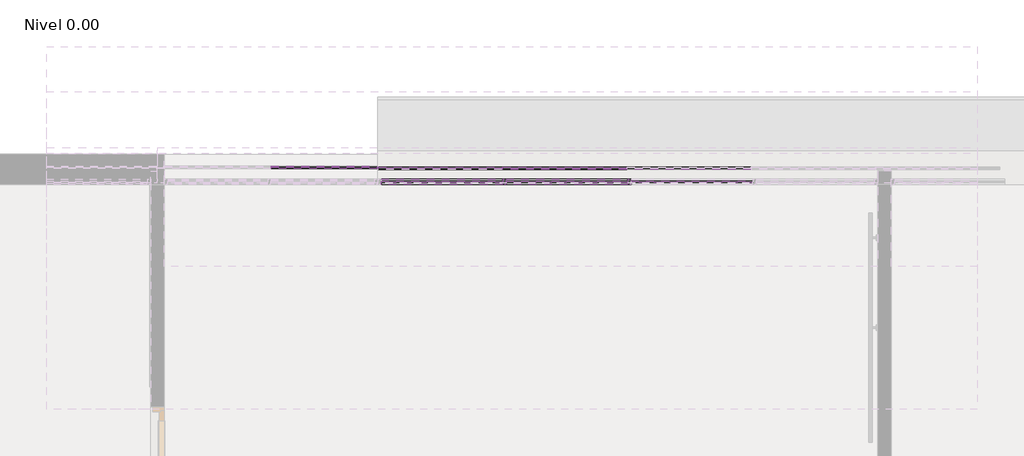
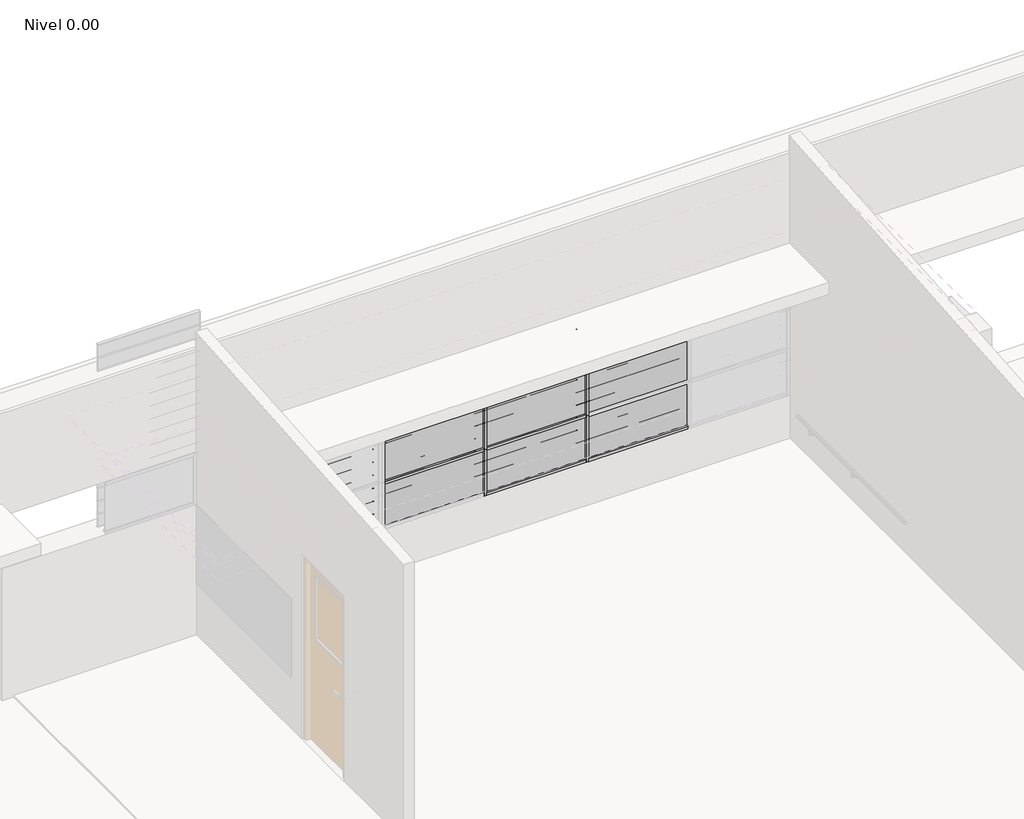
# One storey, part 17 of 27: 88 members, 48 plates.
"""IFC4 building model written with IfcOpenShell, lengths in millimetres."""

from ifc_helpers import new_model, si_unit, origin, place, context, project, spatial, transform, mapped, element, save
from components import circular_mullion_f540d6b4, circular_mullion_e1cfff8a, l_corner_mullion_285056ba, l_corner_mullion_de296168, rectangular_mullion_bbf09746, rectangular_mullion_80493510, rectangular_mullion_e9bbeab9, rectangular_mullion_bccfeea3, rectangular_mullion_bc77bd75, system_panel_6a406881, system_panel_bc75342b, system_panel_7fb71679, system_panel_d60c91ae, system_panel_glazed_7bfd0c8b, system_panel_glazed_5093aaaf

model = new_model("IFC4")

# Units and contexts
model_context = context("Model", 3, world=origin())
ifc_project = project(units=[si_unit("LENGTHUNIT", "METRE", prefix="MILLI")], contexts=[model_context])

# Site, building, storey
site = spatial("IfcSite", under=ifc_project)
building = spatial("IfcBuilding", under=site)
storey = spatial("IfcBuildingStorey", under=building, Name="Nivel 0.00", Elevation=0.0)

# Members
placement = place(None, origin())
circular_mullion_shape = circular_mullion_f540d6b4(model_context)
element("IfcMember", 1, ObjectType="Circular Mullion : ARQ_HERR_16mm", at=placement, inside=storey, context=model_context, shape_type="MappedRepresentation", body=[
    mapped(circular_mullion_shape, transform((-3094.6163923, 6959.4278548, 645.4545455), x_axis=(0.0, 0.0, 1.0), y_axis=(0.0, 1.0, 0.0), z_axis=(-1.0, 0.0, 0.0))),
])
element("IfcMember", 2, ObjectType="Circular Mullion : ARQ_HERR_16mm", at=placement, inside=storey, context=model_context, shape_type="MappedRepresentation", body=[
    mapped(circular_mullion_shape, transform((-4201.9497256, 6959.4278548, 645.4545455), x_axis=(0.0, 0.0, 1.0), y_axis=(0.0, 1.0, 0.0), z_axis=(-1.0, 0.0, 0.0))),
])
element("IfcMember", 3, ObjectType="Circular Mullion : ARQ_HERR_16mm", at=placement, inside=storey, context=model_context, shape_type="MappedRepresentation", body=[
    mapped(circular_mullion_shape, transform((-3094.6163923, 6959.4278548, 790.9090909), x_axis=(0.0, 0.0, 1.0), y_axis=(0.0, 1.0, 0.0), z_axis=(-1.0, 0.0, 0.0))),
])
element("IfcMember", 4, ObjectType="Circular Mullion : ARQ_HERR_16mm", at=placement, inside=storey, context=model_context, shape_type="MappedRepresentation", body=[
    mapped(circular_mullion_shape, transform((-4201.9497256, 6959.4278548, 790.9090909), x_axis=(0.0, 0.0, 1.0), y_axis=(0.0, 1.0, 0.0), z_axis=(-1.0, 0.0, 0.0))),
])
element("IfcMember", 5, ObjectType="Circular Mullion : ARQ_HERR_16mm", at=placement, inside=storey, context=model_context, shape_type="MappedRepresentation", body=[
    mapped(circular_mullion_shape, transform((-3094.6163923, 6959.4278548, 936.3636364), x_axis=(0.0, 0.0, 1.0), y_axis=(0.0, 1.0, 0.0), z_axis=(-1.0, 0.0, 0.0))),
])
element("IfcMember", 6, ObjectType="Circular Mullion : ARQ_HERR_16mm", at=placement, inside=storey, context=model_context, shape_type="MappedRepresentation", body=[
    mapped(circular_mullion_shape, transform((-4201.9497256, 6959.4278548, 936.3636364), x_axis=(0.0, 0.0, 1.0), y_axis=(0.0, 1.0, 0.0), z_axis=(-1.0, 0.0, 0.0))),
])
element("IfcMember", 7, ObjectType="Circular Mullion : ARQ_HERR_16mm", at=placement, inside=storey, context=model_context, shape_type="MappedRepresentation", body=[
    mapped(circular_mullion_shape, transform((-3094.6163923, 6959.4278548, 1081.8181818), x_axis=(0.0, 0.0, 1.0), y_axis=(0.0, 1.0, 0.0), z_axis=(-1.0, 0.0, 0.0))),
])
element("IfcMember", 8, ObjectType="Circular Mullion : ARQ_HERR_16mm", at=placement, inside=storey, context=model_context, shape_type="MappedRepresentation", body=[
    mapped(circular_mullion_shape, transform((-4201.9497256, 6959.4278548, 1081.8181818), x_axis=(0.0, 0.0, 1.0), y_axis=(0.0, 1.0, 0.0), z_axis=(-1.0, 0.0, 0.0))),
])
element("IfcMember", 9, ObjectType="Circular Mullion : ARQ_HERR_16mm", at=placement, inside=storey, context=model_context, shape_type="MappedRepresentation", body=[
    mapped(circular_mullion_shape, transform((-3094.6163923, 6959.4278548, 1227.2727273), x_axis=(0.0, 0.0, 1.0), y_axis=(0.0, 1.0, 0.0), z_axis=(-1.0, 0.0, 0.0))),
])
element("IfcMember", 10, ObjectType="Circular Mullion : ARQ_HERR_16mm", at=placement, inside=storey, context=model_context, shape_type="MappedRepresentation", body=[
    mapped(circular_mullion_shape, transform((-4201.9497256, 6959.4278548, 1227.2727273), x_axis=(0.0, 0.0, 1.0), y_axis=(0.0, 1.0, 0.0), z_axis=(-1.0, 0.0, 0.0))),
])
element("IfcMember", 11, ObjectType="Circular Mullion : ARQ_HERR_16mm", at=placement, inside=storey, context=model_context, shape_type="MappedRepresentation", body=[
    mapped(circular_mullion_shape, transform((-3094.6163923, 6959.4278548, 1372.7272727), x_axis=(0.0, 0.0, 1.0), y_axis=(0.0, 1.0, 0.0), z_axis=(-1.0, 0.0, 0.0))),
])
element("IfcMember", 12, ObjectType="Circular Mullion : ARQ_HERR_16mm", at=placement, inside=storey, context=model_context, shape_type="MappedRepresentation", body=[
    mapped(circular_mullion_shape, transform((-4201.9497256, 6959.4278548, 1372.7272727), x_axis=(0.0, 0.0, 1.0), y_axis=(0.0, 1.0, 0.0), z_axis=(-1.0, 0.0, 0.0))),
])
element("IfcMember", 13, ObjectType="Circular Mullion : ARQ_HERR_16mm", at=placement, inside=storey, context=model_context, shape_type="MappedRepresentation", body=[
    mapped(circular_mullion_shape, transform((-3094.6163923, 6959.4278548, 1518.1818182), x_axis=(0.0, 0.0, 1.0), y_axis=(0.0, 1.0, 0.0), z_axis=(-1.0, 0.0, 0.0))),
])
element("IfcMember", 14, ObjectType="Circular Mullion : ARQ_HERR_16mm", at=placement, inside=storey, context=model_context, shape_type="MappedRepresentation", body=[
    mapped(circular_mullion_shape, transform((-4201.9497256, 6959.4278548, 1518.1818182), x_axis=(0.0, 0.0, 1.0), y_axis=(0.0, 1.0, 0.0), z_axis=(-1.0, 0.0, 0.0))),
])
element("IfcMember", 15, ObjectType="Circular Mullion : ARQ_HERR_16mm", at=placement, inside=storey, context=model_context, shape_type="MappedRepresentation", body=[
    mapped(circular_mullion_shape, transform((-3094.6163923, 6959.4278548, 1663.6363636), x_axis=(0.0, 0.0, 1.0), y_axis=(0.0, 1.0, 0.0), z_axis=(-1.0, 0.0, 0.0))),
])
element("IfcMember", 16, ObjectType="Circular Mullion : ARQ_HERR_16mm", at=placement, inside=storey, context=model_context, shape_type="MappedRepresentation", body=[
    mapped(circular_mullion_shape, transform((-4201.9497256, 6959.4278548, 1663.6363636), x_axis=(0.0, 0.0, 1.0), y_axis=(0.0, 1.0, 0.0), z_axis=(-1.0, 0.0, 0.0))),
])
element("IfcMember", 17, ObjectType="Circular Mullion : ARQ_HERR_16mm", at=placement, inside=storey, context=model_context, shape_type="MappedRepresentation", body=[
    mapped(circular_mullion_shape, transform((-3094.6163923, 6959.4278548, 1809.0909091), x_axis=(0.0, 0.0, 1.0), y_axis=(0.0, 1.0, 0.0), z_axis=(-1.0, 0.0, 0.0))),
])
element("IfcMember", 18, ObjectType="Circular Mullion : ARQ_HERR_16mm", at=placement, inside=storey, context=model_context, shape_type="MappedRepresentation", body=[
    mapped(circular_mullion_shape, transform((-4201.9497256, 6959.4278548, 1809.0909091), x_axis=(0.0, 0.0, 1.0), y_axis=(0.0, 1.0, 0.0), z_axis=(-1.0, 0.0, 0.0))),
])
element("IfcMember", 19, ObjectType="Circular Mullion : ARQ_HERR_16mm", at=placement, inside=storey, context=model_context, shape_type="MappedRepresentation", body=[
    mapped(circular_mullion_shape, transform((-3094.6163923, 6959.4278548, 1954.5454545), x_axis=(0.0, 0.0, 1.0), y_axis=(0.0, 1.0, 0.0), z_axis=(-1.0, 0.0, 0.0))),
])
element("IfcMember", 20, ObjectType="Circular Mullion : ARQ_HERR_16mm", at=placement, inside=storey, context=model_context, shape_type="MappedRepresentation", body=[
    mapped(circular_mullion_shape, transform((-4201.9497256, 6959.4278548, 1954.5454545), x_axis=(0.0, 0.0, 1.0), y_axis=(0.0, 1.0, 0.0), z_axis=(-1.0, 0.0, 0.0))),
])
circular_mullion_2_shape = circular_mullion_e1cfff8a(model_context)
element("IfcMember", 21, ObjectType="Circular Mullion : ARQ_HERR_16mm", at=placement, inside=storey, context=model_context, shape_type="MappedRepresentation", body=[
    mapped(circular_mullion_2_shape, transform((-5321.3271808, 6959.43912, 150.0), x_axis=(0.0, 0.0, 1.0), y_axis=(0.0, -1.0, 0.0), z_axis=(1.0, 0.0, 0.0))),
])
element("IfcMember", 22, ObjectType="Circular Mullion : ARQ_HERR_16mm", at=placement, inside=storey, context=model_context, shape_type="MappedRepresentation", body=[
    mapped(circular_mullion_2_shape, transform((-5321.3271808, 6959.43912, 300.0), x_axis=(0.0, 0.0, 1.0), y_axis=(0.0, -1.0, 0.0), z_axis=(1.0, 0.0, 0.0))),
])
element("IfcMember", 23, ObjectType="Circular Mullion : ARQ_HERR_16mm", at=placement, inside=storey, context=model_context, shape_type="MappedRepresentation", body=[
    mapped(circular_mullion_2_shape, transform((-5321.3271808, 6959.43912, 450.0), x_axis=(0.0, 0.0, 1.0), y_axis=(0.0, -1.0, 0.0), z_axis=(1.0, 0.0, 0.0))),
])
element("IfcMember", 24, ObjectType="Circular Mullion : ARQ_HERR_16mm", at=placement, inside=storey, context=model_context, shape_type="MappedRepresentation", body=[
    mapped(circular_mullion_2_shape, transform((-5321.3271808, 6959.43912, 600.0), x_axis=(0.0, 0.0, 1.0), y_axis=(0.0, -1.0, 0.0), z_axis=(1.0, 0.0, 0.0))),
])
element("IfcMember", 25, ObjectType="Circular Mullion : ARQ_HERR_16mm", at=placement, inside=storey, context=model_context, shape_type="MappedRepresentation", body=[
    mapped(circular_mullion_2_shape, transform((-5321.3271808, 6959.43912, 750.0), x_axis=(0.0, 0.0, 1.0), y_axis=(0.0, -1.0, 0.0), z_axis=(1.0, 0.0, 0.0))),
])
element("IfcMember", 26, ObjectType="Circular Mullion : ARQ_HERR_16mm", at=placement, inside=storey, context=model_context, shape_type="MappedRepresentation", body=[
    mapped(circular_mullion_2_shape, transform((-5321.3271808, 6959.43912, 900.0), x_axis=(0.0, 0.0, 1.0), y_axis=(0.0, -1.0, 0.0), z_axis=(1.0, 0.0, 0.0))),
])
element("IfcMember", 27, ObjectType="Circular Mullion : ARQ_HERR_16mm", at=placement, inside=storey, context=model_context, shape_type="MappedRepresentation", body=[
    mapped(circular_mullion_2_shape, transform((-5321.3271808, 6959.43912, 1050.0), x_axis=(0.0, 0.0, 1.0), y_axis=(0.0, -1.0, 0.0), z_axis=(1.0, 0.0, 0.0))),
])
element("IfcMember", 28, ObjectType="Circular Mullion : ARQ_HERR_16mm", at=placement, inside=storey, context=model_context, shape_type="MappedRepresentation", body=[
    mapped(circular_mullion_2_shape, transform((-5321.3271808, 6959.43912, 1200.0), x_axis=(0.0, 0.0, 1.0), y_axis=(0.0, -1.0, 0.0), z_axis=(1.0, 0.0, 0.0))),
])
element("IfcMember", 29, ObjectType="Circular Mullion : ARQ_HERR_16mm", at=placement, inside=storey, context=model_context, shape_type="MappedRepresentation", body=[
    mapped(circular_mullion_2_shape, transform((-5321.3271808, 6959.43912, 1350.0), x_axis=(0.0, 0.0, 1.0), y_axis=(0.0, -1.0, 0.0), z_axis=(1.0, 0.0, 0.0))),
])
element("IfcMember", 30, ObjectType="Circular Mullion : ARQ_HERR_16mm", at=placement, inside=storey, context=model_context, shape_type="MappedRepresentation", body=[
    mapped(circular_mullion_2_shape, transform((-5321.3271808, 6959.43912, 1500.0), x_axis=(0.0, 0.0, 1.0), y_axis=(0.0, -1.0, 0.0), z_axis=(1.0, 0.0, 0.0))),
])
element("IfcMember", 31, ObjectType="Circular Mullion : ARQ_HERR_16mm", at=placement, inside=storey, context=model_context, shape_type="MappedRepresentation", body=[
    mapped(circular_mullion_2_shape, transform((-5321.3271808, 6959.43912, 1650.0), x_axis=(0.0, 0.0, 1.0), y_axis=(0.0, -1.0, 0.0), z_axis=(1.0, 0.0, 0.0))),
])
element("IfcMember", 32, ObjectType="Circular Mullion : ARQ_HERR_16mm", at=placement, inside=storey, context=model_context, shape_type="MappedRepresentation", body=[
    mapped(circular_mullion_2_shape, transform((-5321.3271808, 6959.43912, 1800.0), x_axis=(0.0, 0.0, 1.0), y_axis=(0.0, -1.0, 0.0), z_axis=(1.0, 0.0, 0.0))),
])
element("IfcMember", 33, ObjectType="Circular Mullion : ARQ_HERR_16mm", at=placement, inside=storey, context=model_context, shape_type="MappedRepresentation", body=[
    mapped(circular_mullion_2_shape, transform((-5321.3271808, 6959.43912, 1950.0), x_axis=(0.0, 0.0, 1.0), y_axis=(0.0, -1.0, 0.0), z_axis=(1.0, 0.0, 0.0))),
])
l_corner_mullion_shape = l_corner_mullion_285056ba(model_context)
element("IfcMember", 34, ObjectType="L Corner Mullion : ARQ_HERR_15X6mm", at=placement, inside=storey, context=model_context, shape_type="MappedRepresentation", body=[
    mapped(l_corner_mullion_shape, transform((-3094.6163923, 6959.4278548, 2100.0), x_axis=(0.0, 0.0, 1.0), y_axis=(0.0, 1.0, 0.0), z_axis=(-1.0, 0.0, 0.0))),
])
element("IfcMember", 35, ObjectType="L Corner Mullion : ARQ_HERR_15X6mm", at=placement, inside=storey, context=model_context, shape_type="MappedRepresentation", body=[
    mapped(l_corner_mullion_shape, transform((-4201.9497256, 6959.4278548, 2100.0), x_axis=(0.0, 0.0, 1.0), y_axis=(0.0, 1.0, 0.0), z_axis=(-1.0, 0.0, 0.0))),
])
element("IfcMember", 36, ObjectType="L Corner Mullion : ARQ_HERR_15X6mm", at=placement, inside=storey, context=model_context, shape_type="MappedRepresentation", body=[
    mapped(l_corner_mullion_shape, transform((-3100.6163923, 6959.4278548, 500.0), x_axis=(0.0, 0.0, -1.0), y_axis=(0.0, 1.0, 0.0), z_axis=(1.0, 0.0, 0.0))),
])
element("IfcMember", 37, ObjectType="L Corner Mullion : ARQ_HERR_15X6mm", at=placement, inside=storey, context=model_context, shape_type="MappedRepresentation", body=[
    mapped(l_corner_mullion_shape, transform((-4207.9497256, 6959.4278548, 500.0), x_axis=(0.0, 0.0, -1.0), y_axis=(0.0, 1.0, 0.0), z_axis=(1.0, 0.0, 0.0))),
])
l_corner_mullion_2_shape = l_corner_mullion_de296168(model_context)
element("IfcMember", 38, ObjectType="L Corner Mullion : ARQ_HERR_15X6mm", at=placement, inside=storey, context=model_context, shape_type="MappedRepresentation", body=[
    mapped(l_corner_mullion_2_shape, transform((-5321.3271808, 6959.43912, 2100.0), x_axis=(0.0, 0.0, 1.0), y_axis=(0.0, -1.0, 0.0), z_axis=(1.0, 0.0, 0.0))),
])
rectangular_mullion_shape = rectangular_mullion_bbf09746(model_context)
element("IfcMember", 39, ObjectType="Rectangular Mullion : ARQ_TV_MULL_50x30mm", at=placement, inside=storey, context=model_context, shape_type="MappedRepresentation", body=[
    mapped(rectangular_mullion_shape, transform((-4187.8546224, 6834.439065, 500.0), x_axis=(1.0, 0.0, 0.0), y_axis=(0.0, -1.0, 0.0), z_axis=(0.0, 0.0, -1.0))),
])
element("IfcMember", 40, ObjectType="Rectangular Mullion : ARQ_TV_MULL_50x30mm", at=placement, inside=storey, context=model_context, shape_type="MappedRepresentation", body=[
    mapped(rectangular_mullion_shape, transform((-3075.426186, 6834.439065, 500.0), x_axis=(1.0, 0.0, 0.0), y_axis=(0.0, -1.0, 0.0), z_axis=(0.0, 0.0, -1.0))),
])
element("IfcMember", 41, ObjectType="Rectangular Mullion : ARQ_TV_MULL_50x30mm", at=placement, inside=storey, context=model_context, shape_type="MappedRepresentation", body=[
    mapped(rectangular_mullion_shape, transform((-4187.8546224, 6834.439065, 1033.3333333), x_axis=(1.0, 0.0, 0.0), y_axis=(0.0, -1.0, 0.0), z_axis=(0.0, 0.0, -1.0))),
])
element("IfcMember", 42, ObjectType="Rectangular Mullion : ARQ_TV_MULL_50x30mm", at=placement, inside=storey, context=model_context, shape_type="MappedRepresentation", body=[
    mapped(rectangular_mullion_shape, transform((-3075.426186, 6834.439065, 1033.3333333), x_axis=(1.0, 0.0, 0.0), y_axis=(0.0, -1.0, 0.0), z_axis=(0.0, 0.0, -1.0))),
])
element("IfcMember", 43, ObjectType="Rectangular Mullion : ARQ_TV_MULL_50x30mm", at=placement, inside=storey, context=model_context, shape_type="MappedRepresentation", body=[
    mapped(rectangular_mullion_shape, transform((-4187.8546224, 6834.439065, 1566.6666667), x_axis=(1.0, 0.0, 0.0), y_axis=(0.0, -1.0, 0.0), z_axis=(0.0, 0.0, -1.0))),
])
element("IfcMember", 44, ObjectType="Rectangular Mullion : ARQ_TV_MULL_50x30mm", at=placement, inside=storey, context=model_context, shape_type="MappedRepresentation", body=[
    mapped(rectangular_mullion_shape, transform((-3075.426186, 6834.439065, 1566.6666667), x_axis=(1.0, 0.0, 0.0), y_axis=(0.0, -1.0, 0.0), z_axis=(0.0, 0.0, -1.0))),
])
rectangular_mullion_2_shape = rectangular_mullion_80493510(model_context)
element("IfcMember", 45, ObjectType="Rectangular Mullion : ARQ_TV_MULL_50x30mm", at=placement, inside=storey, context=model_context, shape_type="MappedRepresentation", body=[
    mapped(rectangular_mullion_2_shape, transform((-4202.8546224, 6834.439065, 2100.0), x_axis=(0.0, 0.0, 1.0), y_axis=(0.0, -1.0, 0.0), z_axis=(1.0, 0.0, 0.0))),
])
element("IfcMember", 46, ObjectType="Rectangular Mullion : ARQ_TV_MULL_50x30mm", at=placement, inside=storey, context=model_context, shape_type="MappedRepresentation", body=[
    mapped(rectangular_mullion_2_shape, transform((-3090.426186, 6834.439065, 2100.0), x_axis=(0.0, 0.0, 1.0), y_axis=(0.0, -1.0, 0.0), z_axis=(1.0, 0.0, 0.0))),
])
element("IfcMember", 47, ObjectType="Rectangular Mullion : ARQ_TV_MULL_50x30mm", at=placement, inside=storey, context=model_context, shape_type="MappedRepresentation", body=[
    mapped(rectangular_mullion_2_shape, transform((-4172.8546224, 6834.439065, 500.0), x_axis=(0.0, 0.0, -1.0), y_axis=(0.0, -1.0, 0.0), z_axis=(-1.0, 0.0, 0.0))),
])
element("IfcMember", 48, ObjectType="Rectangular Mullion : ARQ_TV_MULL_50x30mm", at=placement, inside=storey, context=model_context, shape_type="MappedRepresentation", body=[
    mapped(rectangular_mullion_2_shape, transform((-3060.426186, 6834.439065, 500.0), x_axis=(0.0, 0.0, -1.0), y_axis=(0.0, -1.0, 0.0), z_axis=(-1.0, 0.0, 0.0))),
])
rectangular_mullion_3_shape = rectangular_mullion_e9bbeab9(model_context)
element("IfcMember", 49, ObjectType="Rectangular Mullion : ARQ_TV_MULL_50x30mm", at=placement, inside=storey, context=model_context, shape_type="MappedRepresentation", body=[
    mapped(rectangular_mullion_3_shape, transform((-4202.8546224, 6834.439065, 1033.3333333), x_axis=(0.0, 0.0, 1.0), y_axis=(0.0, -1.0, 0.0), z_axis=(1.0, 0.0, 0.0))),
])
element("IfcMember", 50, ObjectType="Rectangular Mullion : ARQ_TV_MULL_50x30mm", at=placement, inside=storey, context=model_context, shape_type="MappedRepresentation", body=[
    mapped(rectangular_mullion_3_shape, transform((-3090.426186, 6834.439065, 1033.3333333), x_axis=(0.0, 0.0, 1.0), y_axis=(0.0, -1.0, 0.0), z_axis=(1.0, 0.0, 0.0))),
])
element("IfcMember", 51, ObjectType="Rectangular Mullion : ARQ_TV_MULL_50x30mm", at=placement, inside=storey, context=model_context, shape_type="MappedRepresentation", body=[
    mapped(rectangular_mullion_3_shape, transform((-4202.8546224, 6834.439065, 1566.6666667), x_axis=(0.0, 0.0, 1.0), y_axis=(0.0, -1.0, 0.0), z_axis=(1.0, 0.0, 0.0))),
])
element("IfcMember", 52, ObjectType="Rectangular Mullion : ARQ_TV_MULL_50x30mm", at=placement, inside=storey, context=model_context, shape_type="MappedRepresentation", body=[
    mapped(rectangular_mullion_3_shape, transform((-3090.426186, 6834.439065, 1566.6666667), x_axis=(0.0, 0.0, 1.0), y_axis=(0.0, -1.0, 0.0), z_axis=(1.0, 0.0, 0.0))),
])
rectangular_mullion_4_shape = rectangular_mullion_bccfeea3(model_context)
element("IfcMember", 53, ObjectType="Rectangular Mullion : ARQ_HERR_15X6mm", at=placement, inside=storey, context=model_context, shape_type="MappedRepresentation", body=[
    mapped(rectangular_mullion_4_shape, transform((-5315.3271808, 6959.43912, 0.0), x_axis=(1.0, 0.0, 0.0), y_axis=(0.0, -1.0, 0.0), z_axis=(0.0, 0.0, -1.0))),
])
element("IfcMember", 54, ObjectType="Rectangular Mullion : ARQ_HERR_15X6mm", at=placement, inside=storey, context=model_context, shape_type="MappedRepresentation", body=[
    mapped(rectangular_mullion_4_shape, transform((-5315.3271808, 6959.43912, 150.0), x_axis=(1.0, 0.0, 0.0), y_axis=(0.0, -1.0, 0.0), z_axis=(0.0, 0.0, -1.0))),
])
element("IfcMember", 55, ObjectType="Rectangular Mullion : ARQ_HERR_15X6mm", at=placement, inside=storey, context=model_context, shape_type="MappedRepresentation", body=[
    mapped(rectangular_mullion_4_shape, transform((-5315.3271808, 6959.43912, 300.0), x_axis=(1.0, 0.0, 0.0), y_axis=(0.0, -1.0, 0.0), z_axis=(0.0, 0.0, -1.0))),
])
element("IfcMember", 56, ObjectType="Rectangular Mullion : ARQ_HERR_15X6mm", at=placement, inside=storey, context=model_context, shape_type="MappedRepresentation", body=[
    mapped(rectangular_mullion_4_shape, transform((-5315.3271808, 6959.43912, 450.0), x_axis=(1.0, 0.0, 0.0), y_axis=(0.0, -1.0, 0.0), z_axis=(0.0, 0.0, -1.0))),
])
element("IfcMember", 57, ObjectType="Rectangular Mullion : ARQ_HERR_15X6mm", at=placement, inside=storey, context=model_context, shape_type="MappedRepresentation", body=[
    mapped(rectangular_mullion_4_shape, transform((-5315.3271808, 6959.43912, 600.0), x_axis=(1.0, 0.0, 0.0), y_axis=(0.0, -1.0, 0.0), z_axis=(0.0, 0.0, -1.0))),
])
element("IfcMember", 58, ObjectType="Rectangular Mullion : ARQ_HERR_15X6mm", at=placement, inside=storey, context=model_context, shape_type="MappedRepresentation", body=[
    mapped(rectangular_mullion_4_shape, transform((-5315.3271808, 6959.43912, 750.0), x_axis=(1.0, 0.0, 0.0), y_axis=(0.0, -1.0, 0.0), z_axis=(0.0, 0.0, -1.0))),
])
element("IfcMember", 59, ObjectType="Rectangular Mullion : ARQ_HERR_15X6mm", at=placement, inside=storey, context=model_context, shape_type="MappedRepresentation", body=[
    mapped(rectangular_mullion_4_shape, transform((-5315.3271808, 6959.43912, 900.0), x_axis=(1.0, 0.0, 0.0), y_axis=(0.0, -1.0, 0.0), z_axis=(0.0, 0.0, -1.0))),
])
element("IfcMember", 60, ObjectType="Rectangular Mullion : ARQ_HERR_15X6mm", at=placement, inside=storey, context=model_context, shape_type="MappedRepresentation", body=[
    mapped(rectangular_mullion_4_shape, transform((-5315.3271808, 6959.43912, 1050.0), x_axis=(1.0, 0.0, 0.0), y_axis=(0.0, -1.0, 0.0), z_axis=(0.0, 0.0, -1.0))),
])
element("IfcMember", 61, ObjectType="Rectangular Mullion : ARQ_HERR_15X6mm", at=placement, inside=storey, context=model_context, shape_type="MappedRepresentation", body=[
    mapped(rectangular_mullion_4_shape, transform((-5315.3271808, 6959.43912, 1200.0), x_axis=(1.0, 0.0, 0.0), y_axis=(0.0, -1.0, 0.0), z_axis=(0.0, 0.0, -1.0))),
])
element("IfcMember", 62, ObjectType="Rectangular Mullion : ARQ_HERR_15X6mm", at=placement, inside=storey, context=model_context, shape_type="MappedRepresentation", body=[
    mapped(rectangular_mullion_4_shape, transform((-5315.3271808, 6959.43912, 1350.0), x_axis=(1.0, 0.0, 0.0), y_axis=(0.0, -1.0, 0.0), z_axis=(0.0, 0.0, -1.0))),
])
element("IfcMember", 63, ObjectType="Rectangular Mullion : ARQ_HERR_15X6mm", at=placement, inside=storey, context=model_context, shape_type="MappedRepresentation", body=[
    mapped(rectangular_mullion_4_shape, transform((-5315.3271808, 6959.43912, 1500.0), x_axis=(1.0, 0.0, 0.0), y_axis=(0.0, -1.0, 0.0), z_axis=(0.0, 0.0, -1.0))),
])
element("IfcMember", 64, ObjectType="Rectangular Mullion : ARQ_HERR_15X6mm", at=placement, inside=storey, context=model_context, shape_type="MappedRepresentation", body=[
    mapped(rectangular_mullion_4_shape, transform((-5315.3271808, 6959.43912, 1650.0), x_axis=(1.0, 0.0, 0.0), y_axis=(0.0, -1.0, 0.0), z_axis=(0.0, 0.0, -1.0))),
])
element("IfcMember", 65, ObjectType="Rectangular Mullion : ARQ_HERR_15X6mm", at=placement, inside=storey, context=model_context, shape_type="MappedRepresentation", body=[
    mapped(rectangular_mullion_4_shape, transform((-5315.3271808, 6959.43912, 1800.0), x_axis=(1.0, 0.0, 0.0), y_axis=(0.0, -1.0, 0.0), z_axis=(0.0, 0.0, -1.0))),
])
element("IfcMember", 66, ObjectType="Rectangular Mullion : ARQ_HERR_15X6mm", at=placement, inside=storey, context=model_context, shape_type="MappedRepresentation", body=[
    mapped(rectangular_mullion_4_shape, transform((-5315.3271808, 6959.43912, 1950.0), x_axis=(1.0, 0.0, 0.0), y_axis=(0.0, -1.0, 0.0), z_axis=(0.0, 0.0, -1.0))),
])
rectangular_mullion_5_shape = rectangular_mullion_bc77bd75(model_context)
element("IfcMember", 67, ObjectType="Rectangular Mullion : ARQ_HERR_15X6mm", at=placement, inside=storey, context=model_context, shape_type="MappedRepresentation", body=[
    mapped(rectangular_mullion_5_shape, transform((-3097.6163923, 6959.4278548, 500.0), x_axis=(-1.0, 0.0, 0.0), y_axis=(0.0, 1.0, 0.0), z_axis=(0.0, 0.0, -1.0))),
])
element("IfcMember", 68, ObjectType="Rectangular Mullion : ARQ_HERR_15X6mm", at=placement, inside=storey, context=model_context, shape_type="MappedRepresentation", body=[
    mapped(rectangular_mullion_5_shape, transform((-4204.9497256, 6959.4278548, 500.0), x_axis=(-1.0, 0.0, 0.0), y_axis=(0.0, 1.0, 0.0), z_axis=(0.0, 0.0, -1.0))),
])
element("IfcMember", 69, ObjectType="Rectangular Mullion : ARQ_HERR_15X6mm", at=placement, inside=storey, context=model_context, shape_type="MappedRepresentation", body=[
    mapped(rectangular_mullion_5_shape, transform((-3097.6163923, 6959.4278548, 645.4545455), x_axis=(-1.0, 0.0, 0.0), y_axis=(0.0, 1.0, 0.0), z_axis=(0.0, 0.0, -1.0))),
])
element("IfcMember", 70, ObjectType="Rectangular Mullion : ARQ_HERR_15X6mm", at=placement, inside=storey, context=model_context, shape_type="MappedRepresentation", body=[
    mapped(rectangular_mullion_5_shape, transform((-3097.6163923, 6959.4278548, 790.9090909), x_axis=(-1.0, 0.0, 0.0), y_axis=(0.0, 1.0, 0.0), z_axis=(0.0, 0.0, -1.0))),
])
element("IfcMember", 71, ObjectType="Rectangular Mullion : ARQ_HERR_15X6mm", at=placement, inside=storey, context=model_context, shape_type="MappedRepresentation", body=[
    mapped(rectangular_mullion_5_shape, transform((-3097.6163923, 6959.4278548, 936.3636364), x_axis=(-1.0, 0.0, 0.0), y_axis=(0.0, 1.0, 0.0), z_axis=(0.0, 0.0, -1.0))),
])
element("IfcMember", 72, ObjectType="Rectangular Mullion : ARQ_HERR_15X6mm", at=placement, inside=storey, context=model_context, shape_type="MappedRepresentation", body=[
    mapped(rectangular_mullion_5_shape, transform((-3097.6163923, 6959.4278548, 1081.8181818), x_axis=(-1.0, 0.0, 0.0), y_axis=(0.0, 1.0, 0.0), z_axis=(0.0, 0.0, -1.0))),
])
element("IfcMember", 73, ObjectType="Rectangular Mullion : ARQ_HERR_15X6mm", at=placement, inside=storey, context=model_context, shape_type="MappedRepresentation", body=[
    mapped(rectangular_mullion_5_shape, transform((-3097.6163923, 6959.4278548, 1227.2727273), x_axis=(-1.0, 0.0, 0.0), y_axis=(0.0, 1.0, 0.0), z_axis=(0.0, 0.0, -1.0))),
])
element("IfcMember", 74, ObjectType="Rectangular Mullion : ARQ_HERR_15X6mm", at=placement, inside=storey, context=model_context, shape_type="MappedRepresentation", body=[
    mapped(rectangular_mullion_5_shape, transform((-3097.6163923, 6959.4278548, 1372.7272727), x_axis=(-1.0, 0.0, 0.0), y_axis=(0.0, 1.0, 0.0), z_axis=(0.0, 0.0, -1.0))),
])
element("IfcMember", 75, ObjectType="Rectangular Mullion : ARQ_HERR_15X6mm", at=placement, inside=storey, context=model_context, shape_type="MappedRepresentation", body=[
    mapped(rectangular_mullion_5_shape, transform((-3097.6163923, 6959.4278548, 1518.1818182), x_axis=(-1.0, 0.0, 0.0), y_axis=(0.0, 1.0, 0.0), z_axis=(0.0, 0.0, -1.0))),
])
element("IfcMember", 76, ObjectType="Rectangular Mullion : ARQ_HERR_15X6mm", at=placement, inside=storey, context=model_context, shape_type="MappedRepresentation", body=[
    mapped(rectangular_mullion_5_shape, transform((-3097.6163923, 6959.4278548, 1663.6363636), x_axis=(-1.0, 0.0, 0.0), y_axis=(0.0, 1.0, 0.0), z_axis=(0.0, 0.0, -1.0))),
])
element("IfcMember", 77, ObjectType="Rectangular Mullion : ARQ_HERR_15X6mm", at=placement, inside=storey, context=model_context, shape_type="MappedRepresentation", body=[
    mapped(rectangular_mullion_5_shape, transform((-3097.6163923, 6959.4278548, 1809.0909091), x_axis=(-1.0, 0.0, 0.0), y_axis=(0.0, 1.0, 0.0), z_axis=(0.0, 0.0, -1.0))),
])
element("IfcMember", 78, ObjectType="Rectangular Mullion : ARQ_HERR_15X6mm", at=placement, inside=storey, context=model_context, shape_type="MappedRepresentation", body=[
    mapped(rectangular_mullion_5_shape, transform((-4204.9497256, 6959.4278548, 645.4545455), x_axis=(-1.0, 0.0, 0.0), y_axis=(0.0, 1.0, 0.0), z_axis=(0.0, 0.0, -1.0))),
])
element("IfcMember", 79, ObjectType="Rectangular Mullion : ARQ_HERR_15X6mm", at=placement, inside=storey, context=model_context, shape_type="MappedRepresentation", body=[
    mapped(rectangular_mullion_5_shape, transform((-4204.9497256, 6959.4278548, 790.9090909), x_axis=(-1.0, 0.0, 0.0), y_axis=(0.0, 1.0, 0.0), z_axis=(0.0, 0.0, -1.0))),
])
element("IfcMember", 80, ObjectType="Rectangular Mullion : ARQ_HERR_15X6mm", at=placement, inside=storey, context=model_context, shape_type="MappedRepresentation", body=[
    mapped(rectangular_mullion_5_shape, transform((-4204.9497256, 6959.4278548, 936.3636364), x_axis=(-1.0, 0.0, 0.0), y_axis=(0.0, 1.0, 0.0), z_axis=(0.0, 0.0, -1.0))),
])
element("IfcMember", 81, ObjectType="Rectangular Mullion : ARQ_HERR_15X6mm", at=placement, inside=storey, context=model_context, shape_type="MappedRepresentation", body=[
    mapped(rectangular_mullion_5_shape, transform((-4204.9497256, 6959.4278548, 1081.8181818), x_axis=(-1.0, 0.0, 0.0), y_axis=(0.0, 1.0, 0.0), z_axis=(0.0, 0.0, -1.0))),
])
element("IfcMember", 82, ObjectType="Rectangular Mullion : ARQ_HERR_15X6mm", at=placement, inside=storey, context=model_context, shape_type="MappedRepresentation", body=[
    mapped(rectangular_mullion_5_shape, transform((-4204.9497256, 6959.4278548, 1227.2727273), x_axis=(-1.0, 0.0, 0.0), y_axis=(0.0, 1.0, 0.0), z_axis=(0.0, 0.0, -1.0))),
])
element("IfcMember", 83, ObjectType="Rectangular Mullion : ARQ_HERR_15X6mm", at=placement, inside=storey, context=model_context, shape_type="MappedRepresentation", body=[
    mapped(rectangular_mullion_5_shape, transform((-4204.9497256, 6959.4278548, 1372.7272727), x_axis=(-1.0, 0.0, 0.0), y_axis=(0.0, 1.0, 0.0), z_axis=(0.0, 0.0, -1.0))),
])
element("IfcMember", 84, ObjectType="Rectangular Mullion : ARQ_HERR_15X6mm", at=placement, inside=storey, context=model_context, shape_type="MappedRepresentation", body=[
    mapped(rectangular_mullion_5_shape, transform((-4204.9497256, 6959.4278548, 1518.1818182), x_axis=(-1.0, 0.0, 0.0), y_axis=(0.0, 1.0, 0.0), z_axis=(0.0, 0.0, -1.0))),
])
element("IfcMember", 85, ObjectType="Rectangular Mullion : ARQ_HERR_15X6mm", at=placement, inside=storey, context=model_context, shape_type="MappedRepresentation", body=[
    mapped(rectangular_mullion_5_shape, transform((-4204.9497256, 6959.4278548, 1663.6363636), x_axis=(-1.0, 0.0, 0.0), y_axis=(0.0, 1.0, 0.0), z_axis=(0.0, 0.0, -1.0))),
])
element("IfcMember", 86, ObjectType="Rectangular Mullion : ARQ_HERR_15X6mm", at=placement, inside=storey, context=model_context, shape_type="MappedRepresentation", body=[
    mapped(rectangular_mullion_5_shape, transform((-4204.9497256, 6959.4278548, 1809.0909091), x_axis=(-1.0, 0.0, 0.0), y_axis=(0.0, 1.0, 0.0), z_axis=(0.0, 0.0, -1.0))),
])
element("IfcMember", 87, ObjectType="Rectangular Mullion : ARQ_HERR_15X6mm", at=placement, inside=storey, context=model_context, shape_type="MappedRepresentation", body=[
    mapped(rectangular_mullion_5_shape, transform((-3097.6163923, 6959.4278548, 1954.5454545), x_axis=(-1.0, 0.0, 0.0), y_axis=(0.0, 1.0, 0.0), z_axis=(0.0, 0.0, -1.0))),
])
element("IfcMember", 88, ObjectType="Rectangular Mullion : ARQ_HERR_15X6mm", at=placement, inside=storey, context=model_context, shape_type="MappedRepresentation", body=[
    mapped(rectangular_mullion_5_shape, transform((-4204.9497256, 6959.4278548, 1954.5454545), x_axis=(-1.0, 0.0, 0.0), y_axis=(0.0, 1.0, 0.0), z_axis=(0.0, 0.0, -1.0))),
])

# Plates
system_panel_shape = system_panel_6a406881(model_context)
element("IfcPlate", 89, ObjectType="System Panel : VACÍO", at=placement, inside=storey, context=model_context, shape_type="MappedRepresentation", body=[
    mapped(system_panel_shape, transform((-2543.9497257, 6959.4278548, 506.0), x_axis=(-1.0, 0.0, 0.0), y_axis=(0.0, -1.0, 0.0), z_axis=(0.0, 0.0, 1.0))),
])
element("IfcPlate", 90, ObjectType="System Panel : VACÍO", at=placement, inside=storey, context=model_context, shape_type="MappedRepresentation", body=[
    mapped(system_panel_shape, transform((-3651.2830589, 6959.4278548, 506.0), x_axis=(-1.0, 0.0, 0.0), y_axis=(0.0, -1.0, 0.0), z_axis=(0.0, 0.0, 1.0))),
])
element("IfcPlate", 91, ObjectType="System Panel : VACÍO", at=placement, inside=storey, context=model_context, shape_type="MappedRepresentation", body=[
    mapped(system_panel_shape, transform((-3651.2830589, 6959.4278548, 1962.5454545), x_axis=(-1.0, 0.0, 0.0), y_axis=(0.0, -1.0, 0.0), z_axis=(0.0, 0.0, 1.0))),
])
element("IfcPlate", 92, ObjectType="System Panel : VACÍO", at=placement, inside=storey, context=model_context, shape_type="MappedRepresentation", body=[
    mapped(system_panel_shape, transform((-4758.6163923, 6959.4278548, 506.0), x_axis=(-1.0, 0.0, 0.0), y_axis=(0.0, -1.0, 0.0), z_axis=(0.0, 0.0, 1.0))),
])
element("IfcPlate", 93, ObjectType="System Panel : VACÍO", at=placement, inside=storey, context=model_context, shape_type="MappedRepresentation", body=[
    mapped(system_panel_shape, transform((-4758.6163923, 6959.4278548, 1962.5454545), x_axis=(-1.0, 0.0, 0.0), y_axis=(0.0, -1.0, 0.0), z_axis=(0.0, 0.0, 1.0))),
])
system_panel_2_shape = system_panel_bc75342b(model_context)
element("IfcPlate", 94, ObjectType="System Panel : VACÍO", at=placement, inside=storey, context=model_context, shape_type="MappedRepresentation", body=[
    mapped(system_panel_2_shape, transform((-2543.9497257, 6959.4278548, 653.4545455), x_axis=(-1.0, 0.0, 0.0), y_axis=(0.0, -1.0, 0.0), z_axis=(0.0, 0.0, 1.0))),
])
element("IfcPlate", 95, ObjectType="System Panel : VACÍO", at=placement, inside=storey, context=model_context, shape_type="MappedRepresentation", body=[
    mapped(system_panel_2_shape, transform((-3651.2830589, 6959.4278548, 653.4545455), x_axis=(-1.0, 0.0, 0.0), y_axis=(0.0, -1.0, 0.0), z_axis=(0.0, 0.0, 1.0))),
])
element("IfcPlate", 96, ObjectType="System Panel : VACÍO", at=placement, inside=storey, context=model_context, shape_type="MappedRepresentation", body=[
    mapped(system_panel_2_shape, transform((-2543.9497257, 6959.4278548, 798.9090909), x_axis=(-1.0, 0.0, 0.0), y_axis=(0.0, -1.0, 0.0), z_axis=(0.0, 0.0, 1.0))),
])
element("IfcPlate", 97, ObjectType="System Panel : VACÍO", at=placement, inside=storey, context=model_context, shape_type="MappedRepresentation", body=[
    mapped(system_panel_2_shape, transform((-3651.2830589, 6959.4278548, 798.9090909), x_axis=(-1.0, 0.0, 0.0), y_axis=(0.0, -1.0, 0.0), z_axis=(0.0, 0.0, 1.0))),
])
element("IfcPlate", 98, ObjectType="System Panel : VACÍO", at=placement, inside=storey, context=model_context, shape_type="MappedRepresentation", body=[
    mapped(system_panel_2_shape, transform((-2543.9497257, 6959.4278548, 944.3636364), x_axis=(-1.0, 0.0, 0.0), y_axis=(0.0, -1.0, 0.0), z_axis=(0.0, 0.0, 1.0))),
])
element("IfcPlate", 99, ObjectType="System Panel : VACÍO", at=placement, inside=storey, context=model_context, shape_type="MappedRepresentation", body=[
    mapped(system_panel_2_shape, transform((-3651.2830589, 6959.4278548, 944.3636364), x_axis=(-1.0, 0.0, 0.0), y_axis=(0.0, -1.0, 0.0), z_axis=(0.0, 0.0, 1.0))),
])
element("IfcPlate", 100, ObjectType="System Panel : VACÍO", at=placement, inside=storey, context=model_context, shape_type="MappedRepresentation", body=[
    mapped(system_panel_2_shape, transform((-2543.9497257, 6959.4278548, 1089.8181818), x_axis=(-1.0, 0.0, 0.0), y_axis=(0.0, -1.0, 0.0), z_axis=(0.0, 0.0, 1.0))),
])
element("IfcPlate", 101, ObjectType="System Panel : VACÍO", at=placement, inside=storey, context=model_context, shape_type="MappedRepresentation", body=[
    mapped(system_panel_2_shape, transform((-3651.2830589, 6959.4278548, 1089.8181818), x_axis=(-1.0, 0.0, 0.0), y_axis=(0.0, -1.0, 0.0), z_axis=(0.0, 0.0, 1.0))),
])
element("IfcPlate", 102, ObjectType="System Panel : VACÍO", at=placement, inside=storey, context=model_context, shape_type="MappedRepresentation", body=[
    mapped(system_panel_2_shape, transform((-2543.9497257, 6959.4278548, 1235.2727273), x_axis=(-1.0, 0.0, 0.0), y_axis=(0.0, -1.0, 0.0), z_axis=(0.0, 0.0, 1.0))),
])
element("IfcPlate", 103, ObjectType="System Panel : VACÍO", at=placement, inside=storey, context=model_context, shape_type="MappedRepresentation", body=[
    mapped(system_panel_2_shape, transform((-3651.2830589, 6959.4278548, 1235.2727273), x_axis=(-1.0, 0.0, 0.0), y_axis=(0.0, -1.0, 0.0), z_axis=(0.0, 0.0, 1.0))),
])
element("IfcPlate", 104, ObjectType="System Panel : VACÍO", at=placement, inside=storey, context=model_context, shape_type="MappedRepresentation", body=[
    mapped(system_panel_2_shape, transform((-2543.9497257, 6959.4278548, 1380.7272727), x_axis=(-1.0, 0.0, 0.0), y_axis=(0.0, -1.0, 0.0), z_axis=(0.0, 0.0, 1.0))),
])
element("IfcPlate", 105, ObjectType="System Panel : VACÍO", at=placement, inside=storey, context=model_context, shape_type="MappedRepresentation", body=[
    mapped(system_panel_2_shape, transform((-3651.2830589, 6959.4278548, 1380.7272727), x_axis=(-1.0, 0.0, 0.0), y_axis=(0.0, -1.0, 0.0), z_axis=(0.0, 0.0, 1.0))),
])
element("IfcPlate", 106, ObjectType="System Panel : VACÍO", at=placement, inside=storey, context=model_context, shape_type="MappedRepresentation", body=[
    mapped(system_panel_2_shape, transform((-2543.9497257, 6959.4278548, 1526.1818182), x_axis=(-1.0, 0.0, 0.0), y_axis=(0.0, -1.0, 0.0), z_axis=(0.0, 0.0, 1.0))),
])
element("IfcPlate", 107, ObjectType="System Panel : VACÍO", at=placement, inside=storey, context=model_context, shape_type="MappedRepresentation", body=[
    mapped(system_panel_2_shape, transform((-3651.2830589, 6959.4278548, 1526.1818182), x_axis=(-1.0, 0.0, 0.0), y_axis=(0.0, -1.0, 0.0), z_axis=(0.0, 0.0, 1.0))),
])
element("IfcPlate", 108, ObjectType="System Panel : VACÍO", at=placement, inside=storey, context=model_context, shape_type="MappedRepresentation", body=[
    mapped(system_panel_2_shape, transform((-2543.9497257, 6959.4278548, 1671.6363636), x_axis=(-1.0, 0.0, 0.0), y_axis=(0.0, -1.0, 0.0), z_axis=(0.0, 0.0, 1.0))),
])
element("IfcPlate", 109, ObjectType="System Panel : VACÍO", at=placement, inside=storey, context=model_context, shape_type="MappedRepresentation", body=[
    mapped(system_panel_2_shape, transform((-3651.2830589, 6959.4278548, 1671.6363636), x_axis=(-1.0, 0.0, 0.0), y_axis=(0.0, -1.0, 0.0), z_axis=(0.0, 0.0, 1.0))),
])
element("IfcPlate", 110, ObjectType="System Panel : VACÍO", at=placement, inside=storey, context=model_context, shape_type="MappedRepresentation", body=[
    mapped(system_panel_2_shape, transform((-3651.2830589, 6959.4278548, 1817.0909091), x_axis=(-1.0, 0.0, 0.0), y_axis=(0.0, -1.0, 0.0), z_axis=(0.0, 0.0, 1.0))),
])
element("IfcPlate", 111, ObjectType="System Panel : VACÍO", at=placement, inside=storey, context=model_context, shape_type="MappedRepresentation", body=[
    mapped(system_panel_2_shape, transform((-4758.6163923, 6959.4278548, 653.4545455), x_axis=(-1.0, 0.0, 0.0), y_axis=(0.0, -1.0, 0.0), z_axis=(0.0, 0.0, 1.0))),
])
element("IfcPlate", 112, ObjectType="System Panel : VACÍO", at=placement, inside=storey, context=model_context, shape_type="MappedRepresentation", body=[
    mapped(system_panel_2_shape, transform((-4758.6163923, 6959.4278548, 798.9090909), x_axis=(-1.0, 0.0, 0.0), y_axis=(0.0, -1.0, 0.0), z_axis=(0.0, 0.0, 1.0))),
])
element("IfcPlate", 113, ObjectType="System Panel : VACÍO", at=placement, inside=storey, context=model_context, shape_type="MappedRepresentation", body=[
    mapped(system_panel_2_shape, transform((-4758.6163923, 6959.4278548, 944.3636364), x_axis=(-1.0, 0.0, 0.0), y_axis=(0.0, -1.0, 0.0), z_axis=(0.0, 0.0, 1.0))),
])
element("IfcPlate", 114, ObjectType="System Panel : VACÍO", at=placement, inside=storey, context=model_context, shape_type="MappedRepresentation", body=[
    mapped(system_panel_2_shape, transform((-4758.6163923, 6959.4278548, 1089.8181818), x_axis=(-1.0, 0.0, 0.0), y_axis=(0.0, -1.0, 0.0), z_axis=(0.0, 0.0, 1.0))),
])
element("IfcPlate", 115, ObjectType="System Panel : VACÍO", at=placement, inside=storey, context=model_context, shape_type="MappedRepresentation", body=[
    mapped(system_panel_2_shape, transform((-4758.6163923, 6959.4278548, 1235.2727273), x_axis=(-1.0, 0.0, 0.0), y_axis=(0.0, -1.0, 0.0), z_axis=(0.0, 0.0, 1.0))),
])
element("IfcPlate", 116, ObjectType="System Panel : VACÍO", at=placement, inside=storey, context=model_context, shape_type="MappedRepresentation", body=[
    mapped(system_panel_2_shape, transform((-4758.6163923, 6959.4278548, 1380.7272727), x_axis=(-1.0, 0.0, 0.0), y_axis=(0.0, -1.0, 0.0), z_axis=(0.0, 0.0, 1.0))),
])
element("IfcPlate", 117, ObjectType="System Panel : VACÍO", at=placement, inside=storey, context=model_context, shape_type="MappedRepresentation", body=[
    mapped(system_panel_2_shape, transform((-4758.6163923, 6959.4278548, 1526.1818182), x_axis=(-1.0, 0.0, 0.0), y_axis=(0.0, -1.0, 0.0), z_axis=(0.0, 0.0, 1.0))),
])
element("IfcPlate", 118, ObjectType="System Panel : VACÍO", at=placement, inside=storey, context=model_context, shape_type="MappedRepresentation", body=[
    mapped(system_panel_2_shape, transform((-4758.6163923, 6959.4278548, 1671.6363636), x_axis=(-1.0, 0.0, 0.0), y_axis=(0.0, -1.0, 0.0), z_axis=(0.0, 0.0, 1.0))),
])
element("IfcPlate", 119, ObjectType="System Panel : VACÍO", at=placement, inside=storey, context=model_context, shape_type="MappedRepresentation", body=[
    mapped(system_panel_2_shape, transform((-4758.6163923, 6959.4278548, 1817.0909091), x_axis=(-1.0, 0.0, 0.0), y_axis=(0.0, -1.0, 0.0), z_axis=(0.0, 0.0, 1.0))),
])
system_panel_3_shape = system_panel_7fb71679(model_context)
element("IfcPlate", 120, ObjectType="System Panel : VACÍO", at=placement, inside=storey, context=model_context, shape_type="MappedRepresentation", body=[
    mapped(system_panel_3_shape, transform((-5791.8050958, 6959.43912, 1958.0), x_axis=(1.0, 0.0, 0.0), y_axis=(0.0, 1.0, 0.0), z_axis=(0.0, 0.0, 1.0))),
])
system_panel_4_shape = system_panel_d60c91ae(model_context)
element("IfcPlate", 121, ObjectType="System Panel : VACÍO", at=placement, inside=storey, context=model_context, shape_type="MappedRepresentation", body=[
    mapped(system_panel_4_shape, transform((-5791.8050958, 6959.43912, 908.0), x_axis=(1.0, 0.0, 0.0), y_axis=(0.0, 1.0, 0.0), z_axis=(0.0, 0.0, 1.0))),
])
element("IfcPlate", 122, ObjectType="System Panel : VACÍO", at=placement, inside=storey, context=model_context, shape_type="MappedRepresentation", body=[
    mapped(system_panel_4_shape, transform((-5791.8050958, 6959.43912, 1058.0), x_axis=(1.0, 0.0, 0.0), y_axis=(0.0, 1.0, 0.0), z_axis=(0.0, 0.0, 1.0))),
])
element("IfcPlate", 123, ObjectType="System Panel : VACÍO", at=placement, inside=storey, context=model_context, shape_type="MappedRepresentation", body=[
    mapped(system_panel_4_shape, transform((-5791.8050958, 6959.43912, 1208.0), x_axis=(1.0, 0.0, 0.0), y_axis=(0.0, 1.0, 0.0), z_axis=(0.0, 0.0, 1.0))),
])
element("IfcPlate", 124, ObjectType="System Panel : VACÍO", at=placement, inside=storey, context=model_context, shape_type="MappedRepresentation", body=[
    mapped(system_panel_4_shape, transform((-5791.8050958, 6959.43912, 1358.0), x_axis=(1.0, 0.0, 0.0), y_axis=(0.0, 1.0, 0.0), z_axis=(0.0, 0.0, 1.0))),
])
element("IfcPlate", 125, ObjectType="System Panel : VACÍO", at=placement, inside=storey, context=model_context, shape_type="MappedRepresentation", body=[
    mapped(system_panel_4_shape, transform((-5791.8050958, 6959.43912, 1508.0), x_axis=(1.0, 0.0, 0.0), y_axis=(0.0, 1.0, 0.0), z_axis=(0.0, 0.0, 1.0))),
])
element("IfcPlate", 126, ObjectType="System Panel : VACÍO", at=placement, inside=storey, context=model_context, shape_type="MappedRepresentation", body=[
    mapped(system_panel_4_shape, transform((-5791.8050958, 6959.43912, 1658.0), x_axis=(1.0, 0.0, 0.0), y_axis=(0.0, 1.0, 0.0), z_axis=(0.0, 0.0, 1.0))),
])
element("IfcPlate", 127, ObjectType="System Panel : VACÍO", at=placement, inside=storey, context=model_context, shape_type="MappedRepresentation", body=[
    mapped(system_panel_4_shape, transform((-5791.8050958, 6959.43912, 1808.0), x_axis=(1.0, 0.0, 0.0), y_axis=(0.0, 1.0, 0.0), z_axis=(0.0, 0.0, 1.0))),
])
system_panel_glazed_shape = system_panel_glazed_7bfd0c8b(model_context)
element("IfcPlate", 128, ObjectType="System Panel : Glazed", at=placement, inside=storey, context=model_context, shape_type="MappedRepresentation", body=[
    mapped(system_panel_glazed_shape, transform((-4744.0688407, 6834.439065, 530.0), x_axis=(1.0, 0.0, 0.0), y_axis=(0.0, 1.0, 0.0), z_axis=(0.0, 0.0, 1.0))),
])
element("IfcPlate", 129, ObjectType="System Panel : Glazed", at=placement, inside=storey, context=model_context, shape_type="MappedRepresentation", body=[
    mapped(system_panel_glazed_shape, transform((-3631.6404042, 6834.439065, 530.0), x_axis=(1.0, 0.0, 0.0), y_axis=(0.0, 1.0, 0.0), z_axis=(0.0, 0.0, 1.0))),
])
element("IfcPlate", 130, ObjectType="System Panel : Glazed", at=placement, inside=storey, context=model_context, shape_type="MappedRepresentation", body=[
    mapped(system_panel_glazed_shape, transform((-2519.2119678, 6834.439065, 530.0), x_axis=(1.0, 0.0, 0.0), y_axis=(0.0, 1.0, 0.0), z_axis=(0.0, 0.0, 1.0))),
])
element("IfcPlate", 131, ObjectType="System Panel : Glazed", at=placement, inside=storey, context=model_context, shape_type="MappedRepresentation", body=[
    mapped(system_panel_glazed_shape, transform((-4744.0688407, 6834.439065, 1581.6666667), x_axis=(1.0, 0.0, 0.0), y_axis=(0.0, 1.0, 0.0), z_axis=(0.0, 0.0, 1.0))),
])
element("IfcPlate", 132, ObjectType="System Panel : Glazed", at=placement, inside=storey, context=model_context, shape_type="MappedRepresentation", body=[
    mapped(system_panel_glazed_shape, transform((-3631.6404042, 6834.439065, 1581.6666667), x_axis=(1.0, 0.0, 0.0), y_axis=(0.0, 1.0, 0.0), z_axis=(0.0, 0.0, 1.0))),
])
element("IfcPlate", 133, ObjectType="System Panel : Glazed", at=placement, inside=storey, context=model_context, shape_type="MappedRepresentation", body=[
    mapped(system_panel_glazed_shape, transform((-2519.2119678, 6834.439065, 1581.6666667), x_axis=(1.0, 0.0, 0.0), y_axis=(0.0, 1.0, 0.0), z_axis=(0.0, 0.0, 1.0))),
])
system_panel_glazed_2_shape = system_panel_glazed_5093aaaf(model_context)
element("IfcPlate", 134, ObjectType="System Panel : Glazed", at=placement, inside=storey, context=model_context, shape_type="MappedRepresentation", body=[
    mapped(system_panel_glazed_2_shape, transform((-4744.0688407, 6834.439065, 1048.3333333), x_axis=(1.0, 0.0, 0.0), y_axis=(0.0, 1.0, 0.0), z_axis=(0.0, 0.0, 1.0))),
])
element("IfcPlate", 135, ObjectType="System Panel : Glazed", at=placement, inside=storey, context=model_context, shape_type="MappedRepresentation", body=[
    mapped(system_panel_glazed_2_shape, transform((-3631.6404042, 6834.439065, 1048.3333333), x_axis=(1.0, 0.0, 0.0), y_axis=(0.0, 1.0, 0.0), z_axis=(0.0, 0.0, 1.0))),
])
element("IfcPlate", 136, ObjectType="System Panel : Glazed", at=placement, inside=storey, context=model_context, shape_type="MappedRepresentation", body=[
    mapped(system_panel_glazed_2_shape, transform((-2519.2119678, 6834.439065, 1048.3333333), x_axis=(1.0, 0.0, 0.0), y_axis=(0.0, 1.0, 0.0), z_axis=(0.0, 0.0, 1.0))),
])

save(model, "model.ifc")
